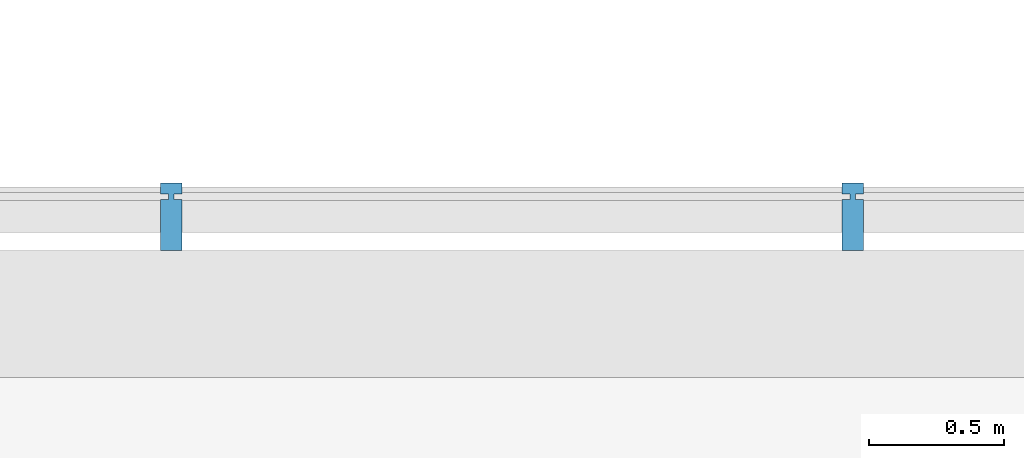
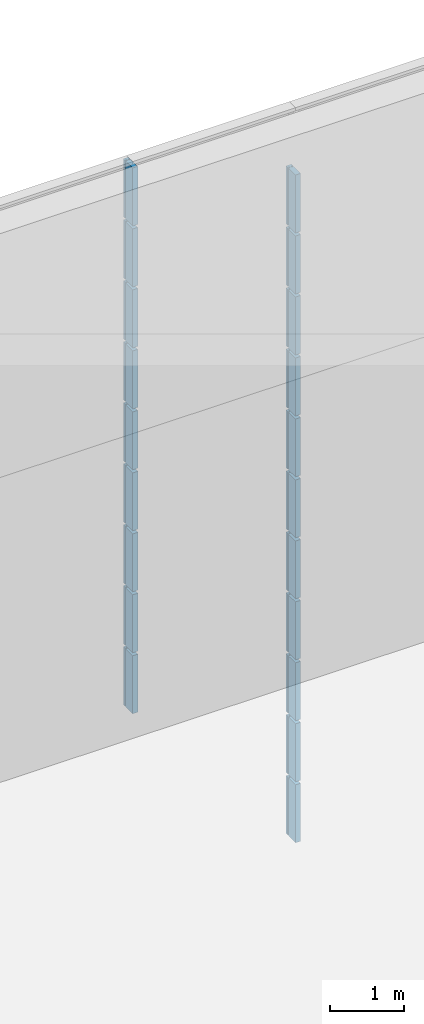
# One storey, part 90 of 105: 20 building element parts, 4 elements without a shape of their own.
"""IFC4 building model written with IfcOpenShell, lengths in millimetres."""

import ifcopenshell
import ifcopenshell.guid

model = None  # the IFC model being written
_history = None  # IfcOwnerHistory: only IFC2X3 demands one
_inside = {}  # id of a spatial element -> (the spatial element, [elements in it])
_under = {}  # id of a project, library or spatial element -> (it, [spatial elements below it])
_declared = {}  # id of a project -> (the project, [libraries it declares])
_typed = {}  # id of a type object -> (the type object, [elements of that type])
_made_of = {}  # id of a material, layer set ... -> (it, [elements and type objects made of it])


def new_model(schema):
    """Start an empty IFC model of exactly this schema.

    Asked for "IFC4X3", IfcOpenShell would pick the latest addendum, in which some entities
    have other attributes; the version numbers below select the first issue.
    IFC2X3 requires an IfcOwnerHistory on every rooted entity: one is made here for all.
    """
    global model, _history
    if schema == "IFC4X3":
        model = ifcopenshell.file(schema_version=(4, 3, 0, 0))
    else:
        model = ifcopenshell.file(schema=schema)
    _inside.clear()
    _under.clear()
    _declared.clear()
    _typed.clear()
    _made_of.clear()
    _history = None
    if model.schema == "IFC2X3":
        org = make("IfcOrganization", Name="unknown")
        user = make(
            "IfcPersonAndOrganization",
            ThePerson=make("IfcPerson", FamilyName="unknown"),
            TheOrganization=org,
        )
        app = make(
            "IfcApplication",
            ApplicationDeveloper=org,
            Version="unknown",
            ApplicationFullName="unknown",
            ApplicationIdentifier="unknown",
        )
        _history = make(
            "IfcOwnerHistory",
            OwningUser=user,
            OwningApplication=app,
            ChangeAction="ADDED",
            CreationDate=0,
        )
    return model


def make(cls, **values):
    """One entity of the class cls with the attributes given. An attribute that is None is left unset."""
    return model.create_entity(
        cls, **{name: value for name, value in values.items() if value is not None}
    )


def entity(cls, *values):
    """Any entity or typed value of the class cls, its attributes in the order of the schema. None: left unset."""
    e = model.create_entity(cls)
    for i, value in enumerate(values):
        if value is not None:
            e[i] = value
    return e


def rooted(cls, **values):
    """An entity with a GlobalId (a new one), such as an element, a storey or a relation."""
    return make(cls, GlobalId=ifcopenshell.guid.new(), OwnerHistory=_history, **values)


def si_unit(unit_type, name, prefix=None):
    """IfcSIUnit, for example si_unit("LENGTHUNIT", "METRE", prefix="MILLI")."""
    return make("IfcSIUnit", UnitType=unit_type, Prefix=prefix, Name=name)


def converted_unit(unit_type, name, factor, base, dimensions=None, offset=None):
    """IfcConversionBasedUnit, such as the inch: factor (a typed value) times the base unit."""
    return make(
        "IfcConversionBasedUnit"
        if offset is None
        else "IfcConversionBasedUnitWithOffset",
        ConversionOffset=offset,
        Dimensions=None
        if dimensions is None
        else entity("IfcDimensionalExponents", *dimensions),
        UnitType=unit_type,
        Name=name,
        ConversionFactor=make(
            "IfcMeasureWithUnit", ValueComponent=factor, UnitComponent=base
        ),
    )


def derived_unit(unit_type, elements):
    """IfcDerivedUnit: a product of units, each with its exponent."""
    return make(
        "IfcDerivedUnit",
        Elements=[
            make("IfcDerivedUnitElement", Unit=unit, Exponent=power)
            for unit, power in elements
        ],
        UnitType=unit_type,
    )


def assignment(units):
    """IfcUnitAssignment: the units of a project."""
    return None if units is None else make("IfcUnitAssignment", Units=units)


def point(xyz):
    """IfcCartesianPoint."""
    return None if xyz is None else make("IfcCartesianPoint", Coordinates=xyz)


def direction(xyz):
    """IfcDirection."""
    return None if xyz is None else make("IfcDirection", DirectionRatios=xyz)


def frame(location, z_axis=None, x_axis=None):
    """IfcAxis2Placement3D, a coordinate frame: its origin and axes. An axis left out is left unset."""
    return make(
        "IfcAxis2Placement3D",
        Location=point(location),
        Axis=direction(z_axis),
        RefDirection=direction(x_axis),
    )


def origin_with_axes():
    """The frame at (0, 0, 0) with the z axis (0, 0, 1) and the x axis (1, 0, 0) written out."""
    return frame((0.0, 0.0, 0.0), z_axis=(0.0, 0.0, 1.0), x_axis=(1.0, 0.0, 0.0))


def place(relative_to, where):
    """IfcLocalPlacement: puts the frame where relative to a parent placement (None: the world)."""
    return make(
        "IfcLocalPlacement", PlacementRelTo=relative_to, RelativePlacement=where
    )


def context(
    kind, dimensions, precision=None, world=None, true_north=None, identifier=None
):
    """IfcGeometricRepresentationContext, for example the 3D "Model" context."""
    return make(
        "IfcGeometricRepresentationContext",
        ContextIdentifier=identifier,
        ContextType=kind,
        CoordinateSpaceDimension=dimensions,
        Precision=precision,
        WorldCoordinateSystem=world,
        TrueNorth=true_north,
    )


def subcontext(parent, identifier, kind, view, scale=None):
    """IfcGeometricRepresentationSubContext, for example "Body" below "Model"."""
    return make(
        "IfcGeometricRepresentationSubContext",
        ContextIdentifier=identifier,
        ContextType=kind,
        ParentContext=parent,
        TargetScale=scale,
        TargetView=view,
    )


def project(units=None, contexts=None):
    """IfcProject with its units and contexts."""
    return rooted(
        "IfcProject",
        Name="project",
        RepresentationContexts=contexts,
        UnitsInContext=assignment(units),
    )


def spatial(cls, under=None, at=None, **own):
    """A site, building, storey or space (cls), placed at a placement, below another one or the project."""
    s = rooted(cls, ObjectPlacement=at, **own)
    if under is not None:
        _under.setdefault(under.id(), (under, []))[1].append(s)
    return s


def point_list(points):
    """IfcCartesianPointList2D or 3D."""
    cls = (
        "IfcCartesianPointList2D" if len(points[0]) == 2 else "IfcCartesianPointList3D"
    )
    return make(cls, CoordList=points)


def triangles(points, corners, closed=None, point_numbers=None):
    """IfcTriangulatedFaceSet: each triangle names its three corners, points numbered from 1."""
    return make(
        "IfcTriangulatedFaceSet",
        Coordinates=point_list(points),
        Closed=closed,
        CoordIndex=corners,
        PnIndex=point_numbers,
    )


def shape(context_of_items, identifier, shape_type, items):
    """IfcShapeRepresentation: the items that make up one representation, for example the "Body"."""
    return make(
        "IfcShapeRepresentation",
        ContextOfItems=context_of_items,
        RepresentationIdentifier=identifier,
        RepresentationType=shape_type,
        Items=items,
    )


def material(Name=None, Category=None):
    """IfcMaterial."""
    return make("IfcMaterial", Name=Name, Category=Category)


def made_of(thing, what):
    """Note that an element or type object is made of a material, layer set ...; save() writes the relation."""
    if what is not None:
        _made_of.setdefault(what.id(), (what, []))[1].append(thing)
    return thing


def element(
    cls,
    number,
    at=None,
    inside=None,
    cuts=None,
    type_object=None,
    material=None,
    context=None,
    identifier="Body",
    shape_type=None,
    held_by="IfcProductDefinitionShape",
    body=None,
    shapes=None,
    **own,
):
    """One element of the class cls, such as IfcWall. Its Tag is "e" and its number.

    at: its placement. inside: the storey or other place that contains it. cuts: it is an
    opening in that element (IfcRelVoidsElement). A single representation is given by context,
    identifier, shape_type and body (its items); several are given by shapes. held_by: the class
    of the entity that holds the representations. save() writes the other relations.
    """
    e = rooted(cls, Tag="e%d" % number, ObjectPlacement=at, **own)
    if body is not None:
        shapes = [shape(context, identifier, shape_type, body)]
    if shapes is not None:
        e.Representation = make(held_by, Representations=shapes)
    if inside is not None:
        _inside.setdefault(inside.id(), (inside, []))[1].append(e)
    if cuts is not None:
        rooted(
            "IfcRelVoidsElement", RelatingBuildingElement=cuts, RelatedOpeningElement=e
        )
    if type_object is not None:
        _typed.setdefault(type_object.id(), (type_object, []))[1].append(e)
    return made_of(e, material)


def aggregate(whole, parts):
    """IfcRelAggregates: a whole, such as a stair, and the parts it consists of."""
    return rooted("IfcRelAggregates", RelatingObject=whole, RelatedObjects=parts)


def save(model, path):
    """Write the relations noted so far, then the file.

    IfcRelAggregates (storeys below a building ...), IfcRelContainedInSpatialStructure (elements
    in a storey), IfcRelDefinesByType, IfcRelAssociatesMaterial and IfcRelDeclares: one each for
    every whole, place, type object, material and project.
    """
    for whole, parts in _under.values():
        aggregate(whole, parts)
    for where, things in _inside.values():
        rooted(
            "IfcRelContainedInSpatialStructure",
            RelatedElements=things,
            RelatingStructure=where,
        )
    for kind, things in _typed.values():
        rooted("IfcRelDefinesByType", RelatedObjects=things, RelatingType=kind)
    for what, things in _made_of.values():
        rooted("IfcRelAssociatesMaterial", RelatedObjects=things, RelatingMaterial=what)
    for by, libraries in _declared.values():
        rooted("IfcRelDeclares", RelatingContext=by, RelatedDefinitions=libraries)
    model.write(path)


model = new_model("IFC4")

# Units and contexts
model_context = context("Model", 3, precision=1e-05, world=origin_with_axes(), true_north=direction((0.0, 1.0)))
body_context = subcontext(model_context, "Body", "Model", "MODEL_VIEW")
ifc_project = project(units=[si_unit("LENGTHUNIT", "METRE", prefix="MILLI"), si_unit("AREAUNIT", "SQUARE_METRE"), si_unit("VOLUMEUNIT", "CUBIC_METRE"), converted_unit("PLANEANGLEUNIT", "DEGREE", entity("IfcLengthMeasure", 0.017453), si_unit("PLANEANGLEUNIT", "RADIAN"), dimensions=[0, 0, 0, 0, 0, 0, 0]), si_unit("SOLIDANGLEUNIT", "STERADIAN"), si_unit("MASSUNIT", "GRAM"), si_unit("TIMEUNIT", "SECOND"), si_unit("THERMODYNAMICTEMPERATUREUNIT", "DEGREE_CELSIUS"), si_unit("LUMINOUSINTENSITYUNIT", "LUMEN"), si_unit("POWERUNIT", "WATT"), derived_unit("THERMALTRANSMITTANCEUNIT", [(si_unit("POWERUNIT", "WATT"), 1), (si_unit("THERMODYNAMICTEMPERATUREUNIT", "KELVIN"), -1), (si_unit("AREAUNIT", "SQUARE_METRE"), -1)])], contexts=[model_context])

# Site, building, storey
site_placement = place(None, origin_with_axes())
site = spatial("IfcSite", under=ifc_project, at=site_placement, Name="Default Site", CompositionType="ELEMENT")
building_placement = place(site_placement, origin_with_axes())
building = spatial("IfcBuilding", under=site, at=building_placement, Name="Default Building", CompositionType="ELEMENT")
storey_placement = place(building_placement, origin_with_axes())
storey = spatial("IfcBuildingStorey", under=building, at=storey_placement, Name="OG - Story", CompositionType="ELEMENT", Elevation=0.0)

# Curtain wall, building element parts
curtain_wall_1_placement = place(storey_placement, origin_with_axes())
curtain_wall_1 = element("IfcCurtainWall", 1, at=curtain_wall_1_placement, inside=storey, Name="Fassade-004", PredefinedType="NOTDEFINED")
ifc_material = material(Name="Blech")
building_element_part_1_placement = place(curtain_wall_1_placement, frame((33014.549222, -4389.262838, 0.0), z_axis=(0.0, 0.0, 1.0), x_axis=(1.0, 0.0, 0.0)))
building_element_part_1 = element("IfcBuildingElementPart", 2, at=building_element_part_1_placement, material=ifc_material, Name="Blech", PredefinedType="NOTDEFINED", context=body_context, shape_type="Tessellation", body=[
    triangles([(24040.0, -9.999, 975.0), (24040.0, -199.999, 975.0), (24010.0, -9.999, 975.0), (23990.0, -9.999, 975.0), (24010.0, 10.0, 975.0), (24040.0, 50.0, 975.0), (24040.0, 10.0, 975.0), (23960.0, -199.999, 975.0), (23960.0, -9.999, 975.0), (23990.0, 10.0, 975.0), (23960.0, 10.0, 975.0), (23960.0, 50.0, 975.0), (24010.0, -9.999, 25.0), (24010.0, 10.0, 25.0), (24040.0, 10.0, 25.0), (24040.0, 50.0, 25.0), (23960.0, 50.0, 25.0), (23960.0, 10.0, 25.0), (23990.0, 10.0, 25.0), (23990.0, -9.999, 25.0), (23960.0, -9.999, 25.0), (23960.0, -199.999, 25.0), (24040.0, -199.999, 25.0), (24040.0, -9.999, 25.0)], [[1, 2, 3], [3, 2, 4], [3, 4, 5], [5, 4, 6], [5, 6, 7], [8, 9, 4], [8, 4, 2], [6, 4, 10], [6, 10, 11], [6, 11, 12], [3, 13, 14], [3, 14, 5], [5, 14, 15], [5, 15, 7], [15, 16, 6], [15, 6, 7], [12, 6, 16], [12, 16, 17], [18, 11, 12], [18, 12, 17], [11, 18, 19], [11, 19, 10], [4, 10, 19], [4, 19, 20], [9, 4, 20], [9, 20, 21], [9, 21, 22], [9, 22, 8], [2, 8, 22], [2, 22, 23], [1, 2, 23], [1, 23, 24], [1, 24, 13], [1, 13, 3], [15, 16, 14], [14, 16, 19], [14, 19, 13], [13, 19, 23], [13, 23, 24], [17, 18, 19], [17, 19, 16], [23, 19, 20], [23, 20, 21], [23, 21, 22]], closed=False),
])
building_element_part_2_placement = place(curtain_wall_1_placement, frame((33014.549222, -4389.262838, 0.0), z_axis=(0.0, 0.0, 1.0), x_axis=(1.0, 0.0, 0.0)))
building_element_part_2 = element("IfcBuildingElementPart", 3, at=building_element_part_2_placement, material=ifc_material, Name="Blech", PredefinedType="NOTDEFINED", context=body_context, shape_type="Tessellation", body=[
    triangles([(24040.0, -9.999, 1975.0), (24040.0, -199.999, 1975.0), (24010.0, -9.999, 1975.0), (23990.0, -9.999, 1975.0), (24010.0, 10.0, 1975.0), (24040.0, 50.0, 1975.0), (24040.0, 10.0, 1975.0), (23960.0, -199.999, 1975.0), (23960.0, -9.999, 1975.0), (23990.0, 10.0, 1975.0), (23960.0, 10.0, 1975.0), (23960.0, 50.0, 1975.0), (24010.0, -9.999, 1025.0), (24010.0, 10.0, 1025.0), (24040.0, 10.0, 1025.0), (24040.0, 50.0, 1025.0), (23960.0, 50.0, 1025.0), (23960.0, 10.0, 1025.0), (23990.0, 10.0, 1025.0), (23990.0, -9.999, 1025.0), (23960.0, -9.999, 1025.0), (23960.0, -199.999, 1025.0), (24040.0, -199.999, 1025.0), (24040.0, -9.999, 1025.0)], [[1, 2, 3], [3, 2, 4], [3, 4, 5], [5, 4, 6], [5, 6, 7], [8, 9, 4], [8, 4, 2], [6, 4, 10], [6, 10, 11], [6, 11, 12], [3, 13, 14], [3, 14, 5], [5, 14, 15], [5, 15, 7], [15, 16, 6], [15, 6, 7], [12, 6, 16], [12, 16, 17], [18, 11, 12], [18, 12, 17], [11, 18, 19], [11, 19, 10], [4, 10, 19], [4, 19, 20], [9, 4, 20], [9, 20, 21], [9, 21, 22], [9, 22, 8], [2, 8, 22], [2, 22, 23], [1, 2, 23], [1, 23, 24], [1, 24, 13], [1, 13, 3], [15, 16, 14], [14, 16, 19], [14, 19, 13], [13, 19, 23], [13, 23, 24], [17, 18, 19], [17, 19, 16], [23, 19, 20], [23, 20, 21], [23, 21, 22]], closed=False),
])
building_element_part_3_placement = place(curtain_wall_1_placement, frame((33014.549222, -4389.262838, 0.0), z_axis=(0.0, 0.0, 1.0), x_axis=(1.0, 0.0, 0.0)))
building_element_part_3 = element("IfcBuildingElementPart", 4, at=building_element_part_3_placement, material=ifc_material, Name="Blech", PredefinedType="NOTDEFINED", context=body_context, shape_type="Tessellation", body=[
    triangles([(24040.0, -9.999, 2975.0), (24040.0, -199.999, 2975.0), (24010.0, -9.999, 2975.0), (23990.0, -9.999, 2975.0), (24010.0, 10.0, 2975.0), (24040.0, 50.0, 2975.0), (24040.0, 10.0, 2975.0), (23960.0, -199.999, 2975.0), (23960.0, -9.999, 2975.0), (23990.0, 10.0, 2975.0), (23960.0, 10.0, 2975.0), (23960.0, 50.0, 2975.0), (24010.0, -9.999, 2025.0), (24010.0, 10.0, 2025.0), (24040.0, 10.0, 2025.0), (24040.0, 50.0, 2025.0), (23960.0, 50.0, 2025.0), (23960.0, 10.0, 2025.0), (23990.0, 10.0, 2025.0), (23990.0, -9.999, 2025.0), (23960.0, -9.999, 2025.0), (23960.0, -199.999, 2025.0), (24040.0, -199.999, 2025.0), (24040.0, -9.999, 2025.0)], [[1, 2, 3], [3, 2, 4], [3, 4, 5], [5, 4, 6], [5, 6, 7], [8, 9, 4], [8, 4, 2], [6, 4, 10], [6, 10, 11], [6, 11, 12], [3, 13, 14], [3, 14, 5], [5, 14, 15], [5, 15, 7], [15, 16, 6], [15, 6, 7], [12, 6, 16], [12, 16, 17], [18, 11, 12], [18, 12, 17], [11, 18, 19], [11, 19, 10], [4, 10, 19], [4, 19, 20], [9, 4, 20], [9, 20, 21], [9, 21, 22], [9, 22, 8], [2, 8, 22], [2, 22, 23], [1, 2, 23], [1, 23, 24], [1, 24, 13], [1, 13, 3], [15, 16, 14], [14, 16, 19], [14, 19, 13], [13, 19, 23], [13, 23, 24], [17, 18, 19], [17, 19, 16], [23, 19, 20], [23, 20, 21], [23, 21, 22]], closed=False),
])
aggregate(curtain_wall_1, [building_element_part_1, building_element_part_2, building_element_part_3])

curtain_wall_2_placement = place(storey_placement, origin_with_axes())
curtain_wall_2 = element("IfcCurtainWall", 5, at=curtain_wall_2_placement, inside=storey, Name="Fassade-004", PredefinedType="NOTDEFINED")
building_element_part_4_placement = place(curtain_wall_2_placement, frame((33014.549222, -4389.262838, 3000.0), z_axis=(0.0, 0.0, 1.0), x_axis=(1.0, 0.0, 0.0)))
building_element_part_4 = element("IfcBuildingElementPart", 6, at=building_element_part_4_placement, material=ifc_material, Name="Blech", PredefinedType="NOTDEFINED", context=body_context, shape_type="Tessellation", body=[
    triangles([(21513.684, -9.999, 975.0), (21513.684, -199.999, 975.0), (21483.684, -9.999, 975.0), (21463.684, -9.999, 975.0), (21483.684, 10.0, 975.0), (21513.684, 50.0, 975.0), (21513.684, 10.0, 975.0), (21433.684, -199.999, 975.0), (21433.684, -9.999, 975.0), (21463.684, 10.0, 975.0), (21433.684, 10.0, 975.0), (21433.684, 50.0, 975.0), (21483.684, -9.999, 25.0), (21483.684, 10.0, 25.0), (21513.684, 10.0, 25.0), (21513.684, 50.0, 25.0), (21433.684, 50.0, 25.0), (21433.684, 10.0, 25.0), (21463.684, 10.0, 25.0), (21463.684, -9.999, 25.0), (21433.684, -9.999, 25.0), (21433.684, -199.999, 25.0), (21513.684, -199.999, 25.0), (21513.684, -9.999, 25.0)], [[1, 2, 3], [3, 2, 4], [3, 4, 5], [5, 4, 6], [5, 6, 7], [8, 9, 4], [8, 4, 2], [6, 4, 10], [6, 10, 11], [6, 11, 12], [3, 13, 14], [3, 14, 5], [5, 14, 15], [5, 15, 7], [15, 16, 6], [15, 6, 7], [12, 6, 16], [12, 16, 17], [18, 11, 12], [18, 12, 17], [11, 18, 19], [11, 19, 10], [4, 10, 19], [4, 19, 20], [9, 4, 20], [9, 20, 21], [9, 21, 22], [9, 22, 8], [2, 8, 22], [2, 22, 23], [1, 2, 23], [1, 23, 24], [1, 24, 13], [1, 13, 3], [15, 16, 14], [14, 16, 19], [14, 19, 13], [13, 19, 23], [13, 23, 24], [17, 18, 19], [17, 19, 16], [23, 19, 20], [23, 20, 21], [23, 21, 22]], closed=False),
])
building_element_part_5_placement = place(curtain_wall_2_placement, frame((33014.549222, -4389.262838, 3000.0), z_axis=(0.0, 0.0, 1.0), x_axis=(1.0, 0.0, 0.0)))
building_element_part_5 = element("IfcBuildingElementPart", 7, at=building_element_part_5_placement, material=ifc_material, Name="Blech", PredefinedType="NOTDEFINED", context=body_context, shape_type="Tessellation", body=[
    triangles([(24040.0, -9.999, 975.0), (24040.0, -199.999, 975.0), (24010.0, -9.999, 975.0), (23990.0, -9.999, 975.0), (24010.0, 10.0, 975.0), (24040.0, 50.0, 975.0), (24040.0, 10.0, 975.0), (23960.0, -199.999, 975.0), (23960.0, -9.999, 975.0), (23990.0, 10.0, 975.0), (23960.0, 10.0, 975.0), (23960.0, 50.0, 975.0), (24010.0, -9.999, 25.0), (24010.0, 10.0, 25.0), (24040.0, 10.0, 25.0), (24040.0, 50.0, 25.0), (23960.0, 50.0, 25.0), (23960.0, 10.0, 25.0), (23990.0, 10.0, 25.0), (23990.0, -9.999, 25.0), (23960.0, -9.999, 25.0), (23960.0, -199.999, 25.0), (24040.0, -199.999, 25.0), (24040.0, -9.999, 25.0)], [[1, 2, 3], [3, 2, 4], [3, 4, 5], [5, 4, 6], [5, 6, 7], [8, 9, 4], [8, 4, 2], [6, 4, 10], [6, 10, 11], [6, 11, 12], [3, 13, 14], [3, 14, 5], [5, 14, 15], [5, 15, 7], [15, 16, 6], [15, 6, 7], [12, 6, 16], [12, 16, 17], [18, 11, 12], [18, 12, 17], [11, 18, 19], [11, 19, 10], [4, 10, 19], [4, 19, 20], [9, 4, 20], [9, 20, 21], [9, 21, 22], [9, 22, 8], [2, 8, 22], [2, 22, 23], [1, 2, 23], [1, 23, 24], [1, 24, 13], [1, 13, 3], [15, 16, 14], [14, 16, 19], [14, 19, 13], [13, 19, 23], [13, 23, 24], [17, 18, 19], [17, 19, 16], [23, 19, 20], [23, 20, 21], [23, 21, 22]], closed=False),
])
building_element_part_6_placement = place(curtain_wall_2_placement, frame((33014.549222, -4389.262838, 3000.0), z_axis=(0.0, 0.0, 1.0), x_axis=(1.0, 0.0, 0.0)))
building_element_part_6 = element("IfcBuildingElementPart", 8, at=building_element_part_6_placement, material=ifc_material, Name="Blech", PredefinedType="NOTDEFINED", context=body_context, shape_type="Tessellation", body=[
    triangles([(21513.684, -9.999, 1975.0), (21513.684, -199.999, 1975.0), (21483.684, -9.999, 1975.0), (21463.684, -9.999, 1975.0), (21483.684, 10.0, 1975.0), (21513.684, 50.0, 1975.0), (21513.684, 10.0, 1975.0), (21433.684, -199.999, 1975.0), (21433.684, -9.999, 1975.0), (21463.684, 10.0, 1975.0), (21433.684, 10.0, 1975.0), (21433.684, 50.0, 1975.0), (21483.684, -9.999, 1025.0), (21483.684, 10.0, 1025.0), (21513.684, 10.0, 1025.0), (21513.684, 50.0, 1025.0), (21433.684, 50.0, 1025.0), (21433.684, 10.0, 1025.0), (21463.684, 10.0, 1025.0), (21463.684, -9.999, 1025.0), (21433.684, -9.999, 1025.0), (21433.684, -199.999, 1025.0), (21513.684, -199.999, 1025.0), (21513.684, -9.999, 1025.0)], [[1, 2, 3], [3, 2, 4], [3, 4, 5], [5, 4, 6], [5, 6, 7], [8, 9, 4], [8, 4, 2], [6, 4, 10], [6, 10, 11], [6, 11, 12], [3, 13, 14], [3, 14, 5], [5, 14, 15], [5, 15, 7], [15, 16, 6], [15, 6, 7], [12, 6, 16], [12, 16, 17], [18, 11, 12], [18, 12, 17], [11, 18, 19], [11, 19, 10], [4, 10, 19], [4, 19, 20], [9, 4, 20], [9, 20, 21], [9, 21, 22], [9, 22, 8], [2, 8, 22], [2, 22, 23], [1, 2, 23], [1, 23, 24], [1, 24, 13], [1, 13, 3], [15, 16, 14], [14, 16, 19], [14, 19, 13], [13, 19, 23], [13, 23, 24], [17, 18, 19], [17, 19, 16], [23, 19, 20], [23, 20, 21], [23, 21, 22]], closed=False),
])
building_element_part_7_placement = place(curtain_wall_2_placement, frame((33014.549222, -4389.262838, 3000.0), z_axis=(0.0, 0.0, 1.0), x_axis=(1.0, 0.0, 0.0)))
building_element_part_7 = element("IfcBuildingElementPart", 9, at=building_element_part_7_placement, material=ifc_material, Name="Blech", PredefinedType="NOTDEFINED", context=body_context, shape_type="Tessellation", body=[
    triangles([(24040.0, -9.999, 1975.0), (24040.0, -199.999, 1975.0), (24010.0, -9.999, 1975.0), (23990.0, -9.999, 1975.0), (24010.0, 10.0, 1975.0), (24040.0, 50.0, 1975.0), (24040.0, 10.0, 1975.0), (23960.0, -199.999, 1975.0), (23960.0, -9.999, 1975.0), (23990.0, 10.0, 1975.0), (23960.0, 10.0, 1975.0), (23960.0, 50.0, 1975.0), (24010.0, -9.999, 1025.0), (24010.0, 10.0, 1025.0), (24040.0, 10.0, 1025.0), (24040.0, 50.0, 1025.0), (23960.0, 50.0, 1025.0), (23960.0, 10.0, 1025.0), (23990.0, 10.0, 1025.0), (23990.0, -9.999, 1025.0), (23960.0, -9.999, 1025.0), (23960.0, -199.999, 1025.0), (24040.0, -199.999, 1025.0), (24040.0, -9.999, 1025.0)], [[1, 2, 3], [3, 2, 4], [3, 4, 5], [5, 4, 6], [5, 6, 7], [8, 9, 4], [8, 4, 2], [6, 4, 10], [6, 10, 11], [6, 11, 12], [3, 13, 14], [3, 14, 5], [5, 14, 15], [5, 15, 7], [15, 16, 6], [15, 6, 7], [12, 6, 16], [12, 16, 17], [18, 11, 12], [18, 12, 17], [11, 18, 19], [11, 19, 10], [4, 10, 19], [4, 19, 20], [9, 4, 20], [9, 20, 21], [9, 21, 22], [9, 22, 8], [2, 8, 22], [2, 22, 23], [1, 2, 23], [1, 23, 24], [1, 24, 13], [1, 13, 3], [15, 16, 14], [14, 16, 19], [14, 19, 13], [13, 19, 23], [13, 23, 24], [17, 18, 19], [17, 19, 16], [23, 19, 20], [23, 20, 21], [23, 21, 22]], closed=False),
])
building_element_part_8_placement = place(curtain_wall_2_placement, frame((33014.549222, -4389.262838, 3000.0), z_axis=(0.0, 0.0, 1.0), x_axis=(1.0, 0.0, 0.0)))
building_element_part_8 = element("IfcBuildingElementPart", 10, at=building_element_part_8_placement, material=ifc_material, Name="Blech", PredefinedType="NOTDEFINED", context=body_context, shape_type="Tessellation", body=[
    triangles([(21513.684, -9.999, 2975.0), (21513.684, -199.999, 2975.0), (21483.684, -9.999, 2975.0), (21463.684, -9.999, 2975.0), (21483.684, 10.0, 2975.0), (21513.684, 50.0, 2975.0), (21513.684, 10.0, 2975.0), (21433.684, -199.999, 2975.0), (21433.684, -9.999, 2975.0), (21463.684, 10.0, 2975.0), (21433.684, 10.0, 2975.0), (21433.684, 50.0, 2975.0), (21483.684, -9.999, 2025.0), (21483.684, 10.0, 2025.0), (21513.684, 10.0, 2025.0), (21513.684, 50.0, 2025.0), (21433.684, 50.0, 2025.0), (21433.684, 10.0, 2025.0), (21463.684, 10.0, 2025.0), (21463.684, -9.999, 2025.0), (21433.684, -9.999, 2025.0), (21433.684, -199.999, 2025.0), (21513.684, -199.999, 2025.0), (21513.684, -9.999, 2025.0)], [[1, 2, 3], [3, 2, 4], [3, 4, 5], [5, 4, 6], [5, 6, 7], [8, 9, 4], [8, 4, 2], [6, 4, 10], [6, 10, 11], [6, 11, 12], [3, 13, 14], [3, 14, 5], [5, 14, 15], [5, 15, 7], [15, 16, 6], [15, 6, 7], [12, 6, 16], [12, 16, 17], [18, 11, 12], [18, 12, 17], [11, 18, 19], [11, 19, 10], [4, 10, 19], [4, 19, 20], [9, 4, 20], [9, 20, 21], [9, 21, 22], [9, 22, 8], [2, 8, 22], [2, 22, 23], [1, 2, 23], [1, 23, 24], [1, 24, 13], [1, 13, 3], [15, 16, 14], [14, 16, 19], [14, 19, 13], [13, 19, 23], [13, 23, 24], [17, 18, 19], [17, 19, 16], [23, 19, 20], [23, 20, 21], [23, 21, 22]], closed=False),
])
building_element_part_9_placement = place(curtain_wall_2_placement, frame((33014.549222, -4389.262838, 3000.0), z_axis=(0.0, 0.0, 1.0), x_axis=(1.0, 0.0, 0.0)))
building_element_part_9 = element("IfcBuildingElementPart", 11, at=building_element_part_9_placement, material=ifc_material, Name="Blech", PredefinedType="NOTDEFINED", context=body_context, shape_type="Tessellation", body=[
    triangles([(24040.0, -9.999, 2975.0), (24040.0, -199.999, 2975.0), (24010.0, -9.999, 2975.0), (23990.0, -9.999, 2975.0), (24010.0, 10.0, 2975.0), (24040.0, 50.0, 2975.0), (24040.0, 10.0, 2975.0), (23960.0, -199.999, 2975.0), (23960.0, -9.999, 2975.0), (23990.0, 10.0, 2975.0), (23960.0, 10.0, 2975.0), (23960.0, 50.0, 2975.0), (24010.0, -9.999, 2025.0), (24010.0, 10.0, 2025.0), (24040.0, 10.0, 2025.0), (24040.0, 50.0, 2025.0), (23960.0, 50.0, 2025.0), (23960.0, 10.0, 2025.0), (23990.0, 10.0, 2025.0), (23990.0, -9.999, 2025.0), (23960.0, -9.999, 2025.0), (23960.0, -199.999, 2025.0), (24040.0, -199.999, 2025.0), (24040.0, -9.999, 2025.0)], [[1, 2, 3], [3, 2, 4], [3, 4, 5], [5, 4, 6], [5, 6, 7], [8, 9, 4], [8, 4, 2], [6, 4, 10], [6, 10, 11], [6, 11, 12], [3, 13, 14], [3, 14, 5], [5, 14, 15], [5, 15, 7], [15, 16, 6], [15, 6, 7], [12, 6, 16], [12, 16, 17], [18, 11, 12], [18, 12, 17], [11, 18, 19], [11, 19, 10], [4, 10, 19], [4, 19, 20], [9, 4, 20], [9, 20, 21], [9, 21, 22], [9, 22, 8], [2, 8, 22], [2, 22, 23], [1, 2, 23], [1, 23, 24], [1, 24, 13], [1, 13, 3], [15, 16, 14], [14, 16, 19], [14, 19, 13], [13, 19, 23], [13, 23, 24], [17, 18, 19], [17, 19, 16], [23, 19, 20], [23, 20, 21], [23, 21, 22]], closed=False),
])
aggregate(curtain_wall_2, [building_element_part_4, building_element_part_5, building_element_part_6, building_element_part_7, building_element_part_8, building_element_part_9])

curtain_wall_3_placement = place(storey_placement, origin_with_axes())
curtain_wall_3 = element("IfcCurtainWall", 12, at=curtain_wall_3_placement, inside=storey, Name="Fassade-004", PredefinedType="NOTDEFINED")
building_element_part_10_placement = place(curtain_wall_3_placement, frame((33014.549222, -4389.262838, 6000.0), z_axis=(0.0, 0.0, 1.0), x_axis=(1.0, 0.0, 0.0)))
building_element_part_10 = element("IfcBuildingElementPart", 13, at=building_element_part_10_placement, material=ifc_material, Name="Blech", PredefinedType="NOTDEFINED", context=body_context, shape_type="Tessellation", body=[
    triangles([(21513.684, -9.999, 975.0), (21513.684, -199.999, 975.0), (21483.684, -9.999, 975.0), (21463.684, -9.999, 975.0), (21483.684, 10.0, 975.0), (21513.684, 50.0, 975.0), (21513.684, 10.0, 975.0), (21433.684, -199.999, 975.0), (21433.684, -9.999, 975.0), (21463.684, 10.0, 975.0), (21433.684, 10.0, 975.0), (21433.684, 50.0, 975.0), (21483.684, -9.999, 25.0), (21483.684, 10.0, 25.0), (21513.684, 10.0, 25.0), (21513.684, 50.0, 25.0), (21433.684, 50.0, 25.0), (21433.684, 10.0, 25.0), (21463.684, 10.0, 25.0), (21463.684, -9.999, 25.0), (21433.684, -9.999, 25.0), (21433.684, -199.999, 25.0), (21513.684, -199.999, 25.0), (21513.684, -9.999, 25.0)], [[1, 2, 3], [3, 2, 4], [3, 4, 5], [5, 4, 6], [5, 6, 7], [8, 9, 4], [8, 4, 2], [6, 4, 10], [6, 10, 11], [6, 11, 12], [3, 13, 14], [3, 14, 5], [5, 14, 15], [5, 15, 7], [15, 16, 6], [15, 6, 7], [12, 6, 16], [12, 16, 17], [18, 11, 12], [18, 12, 17], [11, 18, 19], [11, 19, 10], [4, 10, 19], [4, 19, 20], [9, 4, 20], [9, 20, 21], [9, 21, 22], [9, 22, 8], [2, 8, 22], [2, 22, 23], [1, 2, 23], [1, 23, 24], [1, 24, 13], [1, 13, 3], [15, 16, 14], [14, 16, 19], [14, 19, 13], [13, 19, 23], [13, 23, 24], [17, 18, 19], [17, 19, 16], [23, 19, 20], [23, 20, 21], [23, 21, 22]], closed=False),
])
building_element_part_11_placement = place(curtain_wall_3_placement, frame((33014.549222, -4389.262838, 6000.0), z_axis=(0.0, 0.0, 1.0), x_axis=(1.0, 0.0, 0.0)))
building_element_part_11 = element("IfcBuildingElementPart", 14, at=building_element_part_11_placement, material=ifc_material, Name="Blech", PredefinedType="NOTDEFINED", context=body_context, shape_type="Tessellation", body=[
    triangles([(24040.0, -9.999, 975.0), (24040.0, -199.999, 975.0), (24010.0, -9.999, 975.0), (23990.0, -9.999, 975.0), (24010.0, 10.0, 975.0), (24040.0, 50.0, 975.0), (24040.0, 10.0, 975.0), (23960.0, -199.999, 975.0), (23960.0, -9.999, 975.0), (23990.0, 10.0, 975.0), (23960.0, 10.0, 975.0), (23960.0, 50.0, 975.0), (24010.0, -9.999, 25.0), (24010.0, 10.0, 25.0), (24040.0, 10.0, 25.0), (24040.0, 50.0, 25.0), (23960.0, 50.0, 25.0), (23960.0, 10.0, 25.0), (23990.0, 10.0, 25.0), (23990.0, -9.999, 25.0), (23960.0, -9.999, 25.0), (23960.0, -199.999, 25.0), (24040.0, -199.999, 25.0), (24040.0, -9.999, 25.0)], [[1, 2, 3], [3, 2, 4], [3, 4, 5], [5, 4, 6], [5, 6, 7], [8, 9, 4], [8, 4, 2], [6, 4, 10], [6, 10, 11], [6, 11, 12], [3, 13, 14], [3, 14, 5], [5, 14, 15], [5, 15, 7], [15, 16, 6], [15, 6, 7], [12, 6, 16], [12, 16, 17], [18, 11, 12], [18, 12, 17], [11, 18, 19], [11, 19, 10], [4, 10, 19], [4, 19, 20], [9, 4, 20], [9, 20, 21], [9, 21, 22], [9, 22, 8], [2, 8, 22], [2, 22, 23], [1, 2, 23], [1, 23, 24], [1, 24, 13], [1, 13, 3], [15, 16, 14], [14, 16, 19], [14, 19, 13], [13, 19, 23], [13, 23, 24], [17, 18, 19], [17, 19, 16], [23, 19, 20], [23, 20, 21], [23, 21, 22]], closed=False),
])
building_element_part_12_placement = place(curtain_wall_3_placement, frame((33014.549222, -4389.262838, 6000.0), z_axis=(0.0, 0.0, 1.0), x_axis=(1.0, 0.0, 0.0)))
building_element_part_12 = element("IfcBuildingElementPart", 15, at=building_element_part_12_placement, material=ifc_material, Name="Blech", PredefinedType="NOTDEFINED", context=body_context, shape_type="Tessellation", body=[
    triangles([(21513.684, -9.999, 1975.0), (21513.684, -199.999, 1975.0), (21483.684, -9.999, 1975.0), (21463.684, -9.999, 1975.0), (21483.684, 10.0, 1975.0), (21513.684, 50.0, 1975.0), (21513.684, 10.0, 1975.0), (21433.684, -199.999, 1975.0), (21433.684, -9.999, 1975.0), (21463.684, 10.0, 1975.0), (21433.684, 10.0, 1975.0), (21433.684, 50.0, 1975.0), (21483.684, -9.999, 1025.0), (21483.684, 10.0, 1025.0), (21513.684, 10.0, 1025.0), (21513.684, 50.0, 1025.0), (21433.684, 50.0, 1025.0), (21433.684, 10.0, 1025.0), (21463.684, 10.0, 1025.0), (21463.684, -9.999, 1025.0), (21433.684, -9.999, 1025.0), (21433.684, -199.999, 1025.0), (21513.684, -199.999, 1025.0), (21513.684, -9.999, 1025.0)], [[1, 2, 3], [3, 2, 4], [3, 4, 5], [5, 4, 6], [5, 6, 7], [8, 9, 4], [8, 4, 2], [6, 4, 10], [6, 10, 11], [6, 11, 12], [3, 13, 14], [3, 14, 5], [5, 14, 15], [5, 15, 7], [15, 16, 6], [15, 6, 7], [12, 6, 16], [12, 16, 17], [18, 11, 12], [18, 12, 17], [11, 18, 19], [11, 19, 10], [4, 10, 19], [4, 19, 20], [9, 4, 20], [9, 20, 21], [9, 21, 22], [9, 22, 8], [2, 8, 22], [2, 22, 23], [1, 2, 23], [1, 23, 24], [1, 24, 13], [1, 13, 3], [15, 16, 14], [14, 16, 19], [14, 19, 13], [13, 19, 23], [13, 23, 24], [17, 18, 19], [17, 19, 16], [23, 19, 20], [23, 20, 21], [23, 21, 22]], closed=False),
])
building_element_part_13_placement = place(curtain_wall_3_placement, frame((33014.549222, -4389.262838, 6000.0), z_axis=(0.0, 0.0, 1.0), x_axis=(1.0, 0.0, 0.0)))
building_element_part_13 = element("IfcBuildingElementPart", 16, at=building_element_part_13_placement, material=ifc_material, Name="Blech", PredefinedType="NOTDEFINED", context=body_context, shape_type="Tessellation", body=[
    triangles([(24040.0, -9.999, 1975.0), (24040.0, -199.999, 1975.0), (24010.0, -9.999, 1975.0), (23990.0, -9.999, 1975.0), (24010.0, 10.0, 1975.0), (24040.0, 50.0, 1975.0), (24040.0, 10.0, 1975.0), (23960.0, -199.999, 1975.0), (23960.0, -9.999, 1975.0), (23990.0, 10.0, 1975.0), (23960.0, 10.0, 1975.0), (23960.0, 50.0, 1975.0), (24010.0, -9.999, 1025.0), (24010.0, 10.0, 1025.0), (24040.0, 10.0, 1025.0), (24040.0, 50.0, 1025.0), (23960.0, 50.0, 1025.0), (23960.0, 10.0, 1025.0), (23990.0, 10.0, 1025.0), (23990.0, -9.999, 1025.0), (23960.0, -9.999, 1025.0), (23960.0, -199.999, 1025.0), (24040.0, -199.999, 1025.0), (24040.0, -9.999, 1025.0)], [[1, 2, 3], [3, 2, 4], [3, 4, 5], [5, 4, 6], [5, 6, 7], [8, 9, 4], [8, 4, 2], [6, 4, 10], [6, 10, 11], [6, 11, 12], [3, 13, 14], [3, 14, 5], [5, 14, 15], [5, 15, 7], [15, 16, 6], [15, 6, 7], [12, 6, 16], [12, 16, 17], [18, 11, 12], [18, 12, 17], [11, 18, 19], [11, 19, 10], [4, 10, 19], [4, 19, 20], [9, 4, 20], [9, 20, 21], [9, 21, 22], [9, 22, 8], [2, 8, 22], [2, 22, 23], [1, 2, 23], [1, 23, 24], [1, 24, 13], [1, 13, 3], [15, 16, 14], [14, 16, 19], [14, 19, 13], [13, 19, 23], [13, 23, 24], [17, 18, 19], [17, 19, 16], [23, 19, 20], [23, 20, 21], [23, 21, 22]], closed=False),
])
building_element_part_14_placement = place(curtain_wall_3_placement, frame((33014.549222, -4389.262838, 6000.0), z_axis=(0.0, 0.0, 1.0), x_axis=(1.0, 0.0, 0.0)))
building_element_part_14 = element("IfcBuildingElementPart", 17, at=building_element_part_14_placement, material=ifc_material, Name="Blech", PredefinedType="NOTDEFINED", context=body_context, shape_type="Tessellation", body=[
    triangles([(21513.684, -9.999, 2975.0), (21513.684, -199.999, 2975.0), (21483.684, -9.999, 2975.0), (21463.684, -9.999, 2975.0), (21483.684, 10.0, 2975.0), (21513.684, 50.0, 2975.0), (21513.684, 10.0, 2975.0), (21433.684, -199.999, 2975.0), (21433.684, -9.999, 2975.0), (21463.684, 10.0, 2975.0), (21433.684, 10.0, 2975.0), (21433.684, 50.0, 2975.0), (21483.684, -9.999, 2025.0), (21483.684, 10.0, 2025.0), (21513.684, 10.0, 2025.0), (21513.684, 50.0, 2025.0), (21433.684, 50.0, 2025.0), (21433.684, 10.0, 2025.0), (21463.684, 10.0, 2025.0), (21463.684, -9.999, 2025.0), (21433.684, -9.999, 2025.0), (21433.684, -199.999, 2025.0), (21513.684, -199.999, 2025.0), (21513.684, -9.999, 2025.0)], [[1, 2, 3], [3, 2, 4], [3, 4, 5], [5, 4, 6], [5, 6, 7], [8, 9, 4], [8, 4, 2], [6, 4, 10], [6, 10, 11], [6, 11, 12], [3, 13, 14], [3, 14, 5], [5, 14, 15], [5, 15, 7], [15, 16, 6], [15, 6, 7], [12, 6, 16], [12, 16, 17], [18, 11, 12], [18, 12, 17], [11, 18, 19], [11, 19, 10], [4, 10, 19], [4, 19, 20], [9, 4, 20], [9, 20, 21], [9, 21, 22], [9, 22, 8], [2, 8, 22], [2, 22, 23], [1, 2, 23], [1, 23, 24], [1, 24, 13], [1, 13, 3], [15, 16, 14], [14, 16, 19], [14, 19, 13], [13, 19, 23], [13, 23, 24], [17, 18, 19], [17, 19, 16], [23, 19, 20], [23, 20, 21], [23, 21, 22]], closed=False),
])
building_element_part_15_placement = place(curtain_wall_3_placement, frame((33014.549222, -4389.262838, 6000.0), z_axis=(0.0, 0.0, 1.0), x_axis=(1.0, 0.0, 0.0)))
building_element_part_15 = element("IfcBuildingElementPart", 18, at=building_element_part_15_placement, material=ifc_material, Name="Blech", PredefinedType="NOTDEFINED", context=body_context, shape_type="Tessellation", body=[
    triangles([(24040.0, -9.999, 2975.0), (24040.0, -199.999, 2975.0), (24010.0, -9.999, 2975.0), (23990.0, -9.999, 2975.0), (24010.0, 10.0, 2975.0), (24040.0, 50.0, 2975.0), (24040.0, 10.0, 2975.0), (23960.0, -199.999, 2975.0), (23960.0, -9.999, 2975.0), (23990.0, 10.0, 2975.0), (23960.0, 10.0, 2975.0), (23960.0, 50.0, 2975.0), (24010.0, -9.999, 2025.0), (24010.0, 10.0, 2025.0), (24040.0, 10.0, 2025.0), (24040.0, 50.0, 2025.0), (23960.0, 50.0, 2025.0), (23960.0, 10.0, 2025.0), (23990.0, 10.0, 2025.0), (23990.0, -9.999, 2025.0), (23960.0, -9.999, 2025.0), (23960.0, -199.999, 2025.0), (24040.0, -199.999, 2025.0), (24040.0, -9.999, 2025.0)], [[1, 2, 3], [3, 2, 4], [3, 4, 5], [5, 4, 6], [5, 6, 7], [8, 9, 4], [8, 4, 2], [6, 4, 10], [6, 10, 11], [6, 11, 12], [3, 13, 14], [3, 14, 5], [5, 14, 15], [5, 15, 7], [15, 16, 6], [15, 6, 7], [12, 6, 16], [12, 16, 17], [18, 11, 12], [18, 12, 17], [11, 18, 19], [11, 19, 10], [4, 10, 19], [4, 19, 20], [9, 4, 20], [9, 20, 21], [9, 21, 22], [9, 22, 8], [2, 8, 22], [2, 22, 23], [1, 2, 23], [1, 23, 24], [1, 24, 13], [1, 13, 3], [15, 16, 14], [14, 16, 19], [14, 19, 13], [13, 19, 23], [13, 23, 24], [17, 18, 19], [17, 19, 16], [23, 19, 20], [23, 20, 21], [23, 21, 22]], closed=False),
])
aggregate(curtain_wall_3, [building_element_part_10, building_element_part_11, building_element_part_12, building_element_part_13, building_element_part_14, building_element_part_15])

curtain_wall_4_placement = place(storey_placement, origin_with_axes())
curtain_wall_4 = element("IfcCurtainWall", 19, at=curtain_wall_4_placement, inside=storey, Name="Fassade-004", PredefinedType="NOTDEFINED")
building_element_part_16_placement = place(curtain_wall_4_placement, frame((33014.549222, -4389.262838, 9000.0), z_axis=(0.0, 0.0, 1.0), x_axis=(1.0, 0.0, 0.0)))
building_element_part_16 = element("IfcBuildingElementPart", 20, at=building_element_part_16_placement, material=ifc_material, Name="Blech", PredefinedType="NOTDEFINED", context=body_context, shape_type="Tessellation", body=[
    triangles([(21513.684, -9.999, 975.0), (21513.684, -199.999, 975.0), (21483.684, -9.999, 975.0), (21463.684, -9.999, 975.0), (21483.684, 10.0, 975.0), (21513.684, 50.0, 975.0), (21513.684, 10.0, 975.0), (21433.684, -199.999, 975.0), (21433.684, -9.999, 975.0), (21463.684, 10.0, 975.0), (21433.684, 10.0, 975.0), (21433.684, 50.0, 975.0), (21483.684, -9.999, 25.0), (21483.684, 10.0, 25.0), (21513.684, 10.0, 25.0), (21513.684, 50.0, 25.0), (21433.684, 50.0, 25.0), (21433.684, 10.0, 25.0), (21463.684, 10.0, 25.0), (21463.684, -9.999, 25.0), (21433.684, -9.999, 25.0), (21433.684, -199.999, 25.0), (21513.684, -199.999, 25.0), (21513.684, -9.999, 25.0)], [[1, 2, 3], [3, 2, 4], [3, 4, 5], [5, 4, 6], [5, 6, 7], [8, 9, 4], [8, 4, 2], [6, 4, 10], [6, 10, 11], [6, 11, 12], [3, 13, 14], [3, 14, 5], [5, 14, 15], [5, 15, 7], [15, 16, 6], [15, 6, 7], [12, 6, 16], [12, 16, 17], [18, 11, 12], [18, 12, 17], [11, 18, 19], [11, 19, 10], [4, 10, 19], [4, 19, 20], [9, 4, 20], [9, 20, 21], [9, 21, 22], [9, 22, 8], [2, 8, 22], [2, 22, 23], [1, 2, 23], [1, 23, 24], [1, 24, 13], [1, 13, 3], [15, 16, 14], [14, 16, 19], [14, 19, 13], [13, 19, 23], [13, 23, 24], [17, 18, 19], [17, 19, 16], [23, 19, 20], [23, 20, 21], [23, 21, 22]], closed=False),
])
building_element_part_17_placement = place(curtain_wall_4_placement, frame((33014.549222, -4389.262838, 9000.0), z_axis=(0.0, 0.0, 1.0), x_axis=(1.0, 0.0, 0.0)))
building_element_part_17 = element("IfcBuildingElementPart", 21, at=building_element_part_17_placement, material=ifc_material, Name="Blech", PredefinedType="NOTDEFINED", context=body_context, shape_type="Tessellation", body=[
    triangles([(24040.0, -9.999, 975.0), (24040.0, -199.999, 975.0), (24010.0, -9.999, 975.0), (23990.0, -9.999, 975.0), (24010.0, 10.0, 975.0), (24040.0, 50.0, 975.0), (24040.0, 10.0, 975.0), (23960.0, -199.999, 975.0), (23960.0, -9.999, 975.0), (23990.0, 10.0, 975.0), (23960.0, 10.0, 975.0), (23960.0, 50.0, 975.0), (24010.0, -9.999, 25.0), (24010.0, 10.0, 25.0), (24040.0, 10.0, 25.0), (24040.0, 50.0, 25.0), (23960.0, 50.0, 25.0), (23960.0, 10.0, 25.0), (23990.0, 10.0, 25.0), (23990.0, -9.999, 25.0), (23960.0, -9.999, 25.0), (23960.0, -199.999, 25.0), (24040.0, -199.999, 25.0), (24040.0, -9.999, 25.0)], [[1, 2, 3], [3, 2, 4], [3, 4, 5], [5, 4, 6], [5, 6, 7], [8, 9, 4], [8, 4, 2], [6, 4, 10], [6, 10, 11], [6, 11, 12], [3, 13, 14], [3, 14, 5], [5, 14, 15], [5, 15, 7], [15, 16, 6], [15, 6, 7], [12, 6, 16], [12, 16, 17], [18, 11, 12], [18, 12, 17], [11, 18, 19], [11, 19, 10], [4, 10, 19], [4, 19, 20], [9, 4, 20], [9, 20, 21], [9, 21, 22], [9, 22, 8], [2, 8, 22], [2, 22, 23], [1, 2, 23], [1, 23, 24], [1, 24, 13], [1, 13, 3], [15, 16, 14], [14, 16, 19], [14, 19, 13], [13, 19, 23], [13, 23, 24], [17, 18, 19], [17, 19, 16], [23, 19, 20], [23, 20, 21], [23, 21, 22]], closed=False),
])
building_element_part_18_placement = place(curtain_wall_4_placement, frame((33014.549222, -4389.262838, 9000.0), z_axis=(0.0, 0.0, 1.0), x_axis=(1.0, 0.0, 0.0)))
building_element_part_18 = element("IfcBuildingElementPart", 22, at=building_element_part_18_placement, material=ifc_material, Name="Blech", PredefinedType="NOTDEFINED", context=body_context, shape_type="Tessellation", body=[
    triangles([(21513.684, -9.999, 1975.0), (21513.684, -199.999, 1975.0), (21483.684, -9.999, 1975.0), (21463.684, -9.999, 1975.0), (21483.684, 10.0, 1975.0), (21513.684, 50.0, 1975.0), (21513.684, 10.0, 1975.0), (21433.684, -199.999, 1975.0), (21433.684, -9.999, 1975.0), (21463.684, 10.0, 1975.0), (21433.684, 10.0, 1975.0), (21433.684, 50.0, 1975.0), (21483.684, -9.999, 1025.0), (21483.684, 10.0, 1025.0), (21513.684, 10.0, 1025.0), (21513.684, 50.0, 1025.0), (21433.684, 50.0, 1025.0), (21433.684, 10.0, 1025.0), (21463.684, 10.0, 1025.0), (21463.684, -9.999, 1025.0), (21433.684, -9.999, 1025.0), (21433.684, -199.999, 1025.0), (21513.684, -199.999, 1025.0), (21513.684, -9.999, 1025.0)], [[1, 2, 3], [3, 2, 4], [3, 4, 5], [5, 4, 6], [5, 6, 7], [8, 9, 4], [8, 4, 2], [6, 4, 10], [6, 10, 11], [6, 11, 12], [3, 13, 14], [3, 14, 5], [5, 14, 15], [5, 15, 7], [15, 16, 6], [15, 6, 7], [12, 6, 16], [12, 16, 17], [18, 11, 12], [18, 12, 17], [11, 18, 19], [11, 19, 10], [4, 10, 19], [4, 19, 20], [9, 4, 20], [9, 20, 21], [9, 21, 22], [9, 22, 8], [2, 8, 22], [2, 22, 23], [1, 2, 23], [1, 23, 24], [1, 24, 13], [1, 13, 3], [15, 16, 14], [14, 16, 19], [14, 19, 13], [13, 19, 23], [13, 23, 24], [17, 18, 19], [17, 19, 16], [23, 19, 20], [23, 20, 21], [23, 21, 22]], closed=False),
])
building_element_part_19_placement = place(curtain_wall_4_placement, frame((33014.549222, -4389.262838, 9000.0), z_axis=(0.0, 0.0, 1.0), x_axis=(1.0, 0.0, 0.0)))
building_element_part_19 = element("IfcBuildingElementPart", 23, at=building_element_part_19_placement, material=ifc_material, Name="Blech", PredefinedType="NOTDEFINED", context=body_context, shape_type="Tessellation", body=[
    triangles([(24040.0, -9.999, 1975.0), (24040.0, -199.999, 1975.0), (24010.0, -9.999, 1975.0), (23990.0, -9.999, 1975.0), (24010.0, 10.0, 1975.0), (24040.0, 50.0, 1975.0), (24040.0, 10.0, 1975.0), (23960.0, -199.999, 1975.0), (23960.0, -9.999, 1975.0), (23990.0, 10.0, 1975.0), (23960.0, 10.0, 1975.0), (23960.0, 50.0, 1975.0), (24010.0, -9.999, 1025.0), (24010.0, 10.0, 1025.0), (24040.0, 10.0, 1025.0), (24040.0, 50.0, 1025.0), (23960.0, 50.0, 1025.0), (23960.0, 10.0, 1025.0), (23990.0, 10.0, 1025.0), (23990.0, -9.999, 1025.0), (23960.0, -9.999, 1025.0), (23960.0, -199.999, 1025.0), (24040.0, -199.999, 1025.0), (24040.0, -9.999, 1025.0)], [[1, 2, 3], [3, 2, 4], [3, 4, 5], [5, 4, 6], [5, 6, 7], [8, 9, 4], [8, 4, 2], [6, 4, 10], [6, 10, 11], [6, 11, 12], [3, 13, 14], [3, 14, 5], [5, 14, 15], [5, 15, 7], [15, 16, 6], [15, 6, 7], [12, 6, 16], [12, 16, 17], [18, 11, 12], [18, 12, 17], [11, 18, 19], [11, 19, 10], [4, 10, 19], [4, 19, 20], [9, 4, 20], [9, 20, 21], [9, 21, 22], [9, 22, 8], [2, 8, 22], [2, 22, 23], [1, 2, 23], [1, 23, 24], [1, 24, 13], [1, 13, 3], [15, 16, 14], [14, 16, 19], [14, 19, 13], [13, 19, 23], [13, 23, 24], [17, 18, 19], [17, 19, 16], [23, 19, 20], [23, 20, 21], [23, 21, 22]], closed=False),
])
building_element_part_20_placement = place(curtain_wall_4_placement, frame((33014.549222, -4389.262838, 9000.0), z_axis=(0.0, 0.0, 1.0), x_axis=(1.0, 0.0, 0.0)))
building_element_part_20 = element("IfcBuildingElementPart", 24, at=building_element_part_20_placement, material=ifc_material, Name="Blech", PredefinedType="NOTDEFINED", context=body_context, shape_type="Tessellation", body=[
    triangles([(21513.684, -9.999, 2975.0), (21513.684, -199.999, 2975.0), (21483.684, -9.999, 2975.0), (21463.684, -9.999, 2975.0), (21483.684, 10.0, 2975.0), (21513.684, 50.0, 2975.0), (21513.684, 10.0, 2975.0), (21433.684, -199.999, 2975.0), (21433.684, -9.999, 2975.0), (21463.684, 10.0, 2975.0), (21433.684, 10.0, 2975.0), (21433.684, 50.0, 2975.0), (21483.684, -9.999, 2025.0), (21483.684, 10.0, 2025.0), (21513.684, 10.0, 2025.0), (21513.684, 50.0, 2025.0), (21433.684, 50.0, 2025.0), (21433.684, 10.0, 2025.0), (21463.684, 10.0, 2025.0), (21463.684, -9.999, 2025.0), (21433.684, -9.999, 2025.0), (21433.684, -199.999, 2025.0), (21513.684, -199.999, 2025.0), (21513.684, -9.999, 2025.0)], [[1, 2, 3], [3, 2, 4], [3, 4, 5], [5, 4, 6], [5, 6, 7], [8, 9, 4], [8, 4, 2], [6, 4, 10], [6, 10, 11], [6, 11, 12], [3, 13, 14], [3, 14, 5], [5, 14, 15], [5, 15, 7], [15, 16, 6], [15, 6, 7], [12, 6, 16], [12, 16, 17], [18, 11, 12], [18, 12, 17], [11, 18, 19], [11, 19, 10], [4, 10, 19], [4, 19, 20], [9, 4, 20], [9, 20, 21], [9, 21, 22], [9, 22, 8], [2, 8, 22], [2, 22, 23], [1, 2, 23], [1, 23, 24], [1, 24, 13], [1, 13, 3], [15, 16, 14], [14, 16, 19], [14, 19, 13], [13, 19, 23], [13, 23, 24], [17, 18, 19], [17, 19, 16], [23, 19, 20], [23, 20, 21], [23, 21, 22]], closed=False),
])
aggregate(curtain_wall_4, [building_element_part_16, building_element_part_17, building_element_part_18, building_element_part_19, building_element_part_20])

save(model, "model.ifc")
